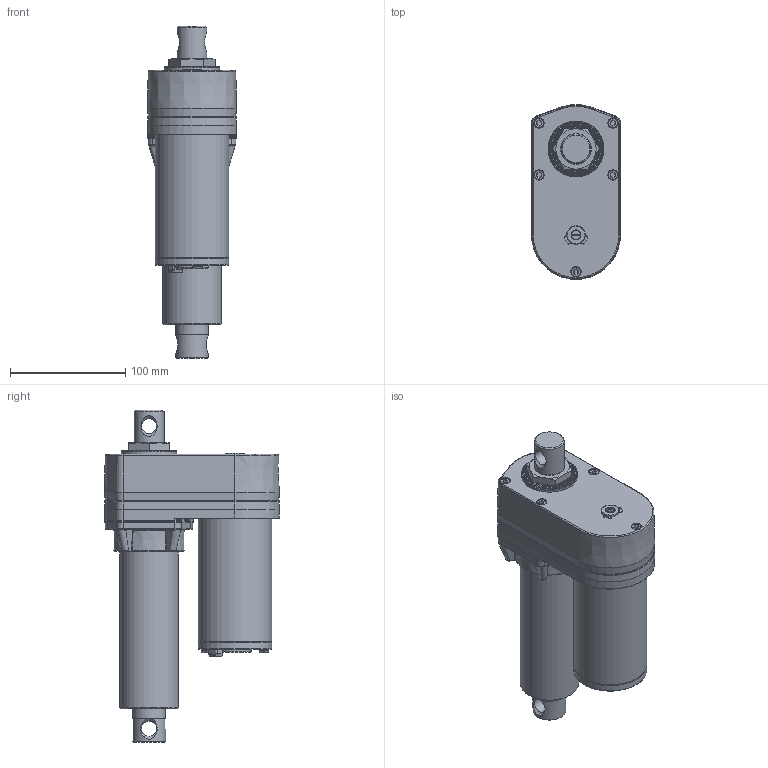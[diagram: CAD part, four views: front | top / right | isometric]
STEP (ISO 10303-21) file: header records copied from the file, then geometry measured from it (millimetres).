
FILE_DESCRIPTION (( 'STEP AP203' ), '1' );
FILE_NAME ('ID10II-A-With Manual Drive-102.STEP', '2014-06-10T02:05:43', ( '' ), ( '' ), 'SwSTEP 2.0', 'SolidWorks 2013', '' );
FILE_SCHEMA (( 'CONFIG_CONTROL_DESIGN' ));
Length unit declared in the file: millimetre
Products named in the file (3): ID10II-A-With Manual Drive-102-1; ID10II-A-With Manual Drive-102-2; ID10II-A-With Manual Drive-102
Assembly tree (2 placements, depth 2):
  ID10II-A-With Manual Drive-102
    ID10II-A-With Manual Drive-102-1
    ID10II-A-With Manual Drive-102-2
Bounding box: 77.15 x 151.65 x 287.8 mm (x, y, z)
Volume: 1373575.5 mm3; surface area: 131463.1 mm2
Topology: 2 solids, 2 shells, 859 faces, 2226 edges, 1396 vertices
Faces by surface type: plane 522, cylinder 152, bspline 92, torus 53, cone 40
Full cylindrical faces by diameter (mm): 8.5 x7, 9 x5, 13 x2, 16 x1, 26 x1, 28 x2, 28.1 x1, 28.6 x3, 48.2 x1, 50.8 x1, 63.2 x1, 63.5 x2
Entity records: 29767 total; most frequent: CARTESIAN_POINT 11010, ORIENTED_EDGE 4308, DIRECTION 3356, EDGE_CURVE 2154, VERTEX_POINT 1382, AXIS2_PLACEMENT_3D 1224, EDGE_LOOP 946, LINE 908
